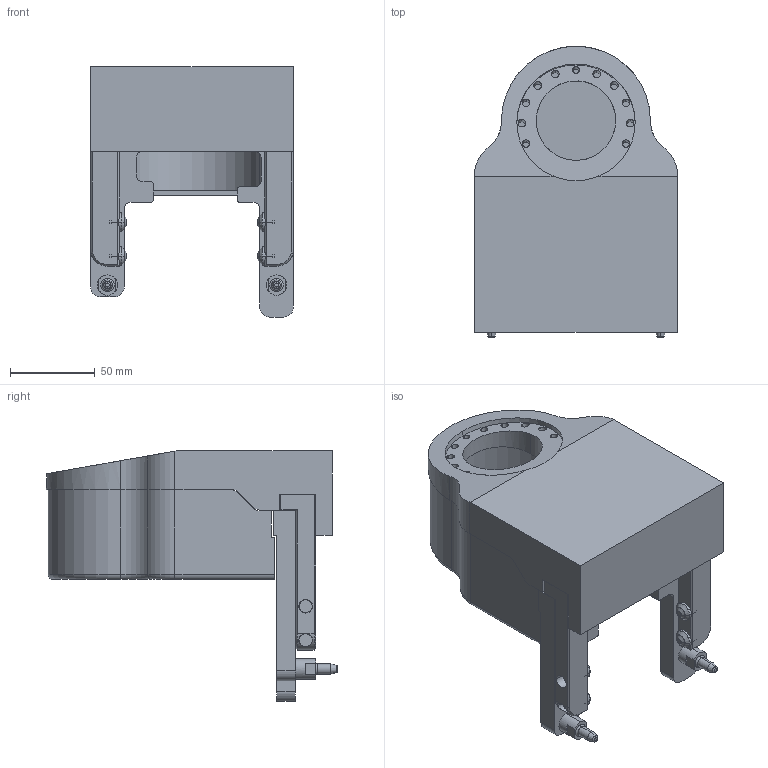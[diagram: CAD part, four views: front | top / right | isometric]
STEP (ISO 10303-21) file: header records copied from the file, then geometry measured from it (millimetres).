
FILE_DESCRIPTION (( 'STEP AP214' ), '1' );
FILE_NAME ('66930.STEP', '2021-05-20T08:15:59', ( '' ), ( '' ), 'SwSTEP 2.0', 'SolidWorks 2019', '' );
FILE_SCHEMA (( 'AUTOMOTIVE_DESIGN' ));
Length unit declared in the file: millimetre
Products named in the file (2): 66930
Bounding box: 120 x 172.17 x 148 mm (x, y, z)
Volume: 609368.1 mm3; surface area: 155823.6 mm2
Topology: 11 solids, 11 shells, 401 faces, 938 edges, 576 vertices
Faces by surface type: plane 149, cylinder 143, cone 64, torus 45
Entity records: 16180 total; most frequent: CARTESIAN_POINT 2215, DIRECTION 2097, ORIENTED_EDGE 1876, EDGE_CURVE 938, AXIS2_PLACEMENT_3D 810, VERTEX_POINT 576, VECTOR 477, LINE 477
